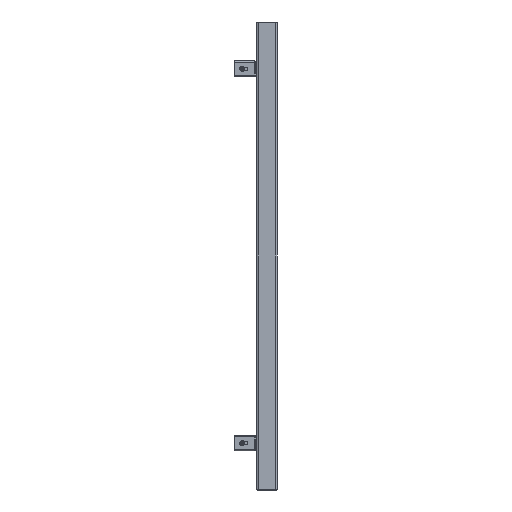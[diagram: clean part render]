
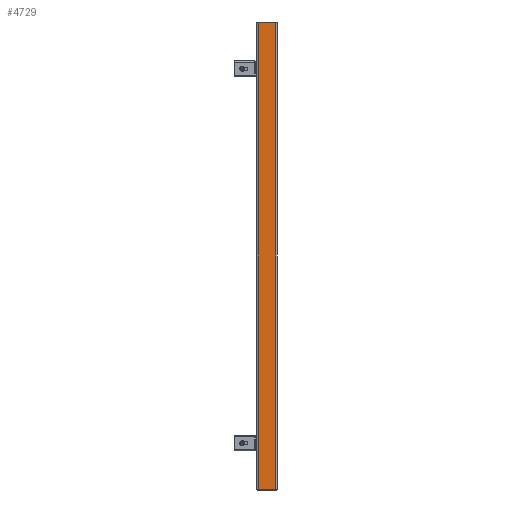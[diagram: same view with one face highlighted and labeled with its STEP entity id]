
A CAD part, left-side view. The second image highlights one B-rep face of the part: STEP entity #4729.
In plain terms, the highlighted planar face has unit normal (-1, 0, 0).
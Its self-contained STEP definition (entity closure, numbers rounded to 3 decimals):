
#4380=CARTESIAN_POINT('',(-190.0,-17.,1.5));
#4381=VERTEX_POINT('',#4380);
#4532=CARTESIAN_POINT('',(-190.0,17.,1.5));
#4533=VERTEX_POINT('',#4532);
#4550=CARTESIAN_POINT('',(-190.0,-17.,1.5));
#4551=DIRECTION('',(0.0,1.0,0.0));
#4552=VECTOR('',#4551,34.0);
#4553=LINE('',#4550,#4552);
#4554=EDGE_CURVE('',#4381,#4533,#4553,.T.);
#4699=CARTESIAN_POINT('',(-190.0,-17.,0.0));
#4700=DIRECTION('',(-1.0,0.0,0.0));
#4701=DIRECTION('',(0.0,0.0,1.0));
#4702=AXIS2_PLACEMENT_3D('',#4699,#4700,#4701);
#4703=PLANE('',#4702);
#4704=ORIENTED_EDGE('',*,*,#4554,.F.);
#4705=CARTESIAN_POINT('',(-190.0,-17.,898.5));
#4706=VERTEX_POINT('',#4705);
#4707=CARTESIAN_POINT('',(-190.0,-17.,1.5));
#4708=DIRECTION('',(0.0,0.0,1.0));
#4709=VECTOR('',#4708,897.0);
#4710=LINE('',#4707,#4709);
#4711=EDGE_CURVE('',#4381,#4706,#4710,.T.);
#4712=ORIENTED_EDGE('',*,*,#4711,.T.);
#4713=CARTESIAN_POINT('',(-190.0,17.,898.5));
#4714=VERTEX_POINT('',#4713);
#4715=CARTESIAN_POINT('',(-190.0,17.,898.5));
#4716=DIRECTION('',(0.0,-1.0,0.0));
#4717=VECTOR('',#4716,34.0);
#4718=LINE('',#4715,#4717);
#4719=EDGE_CURVE('',#4714,#4706,#4718,.T.);
#4720=ORIENTED_EDGE('',*,*,#4719,.F.);
#4721=CARTESIAN_POINT('',(-190.0,17.,1.5));
#4722=DIRECTION('',(0.0,0.0,1.0));
#4723=VECTOR('',#4722,897.0);
#4724=LINE('',#4721,#4723);
#4725=EDGE_CURVE('',#4533,#4714,#4724,.T.);
#4726=ORIENTED_EDGE('',*,*,#4725,.F.);
#4727=EDGE_LOOP('',(#4704,#4712,#4720,#4726));
#4728=FACE_OUTER_BOUND('',#4727,.T.);
#4729=ADVANCED_FACE('',(#4728),#4703,.T.);
